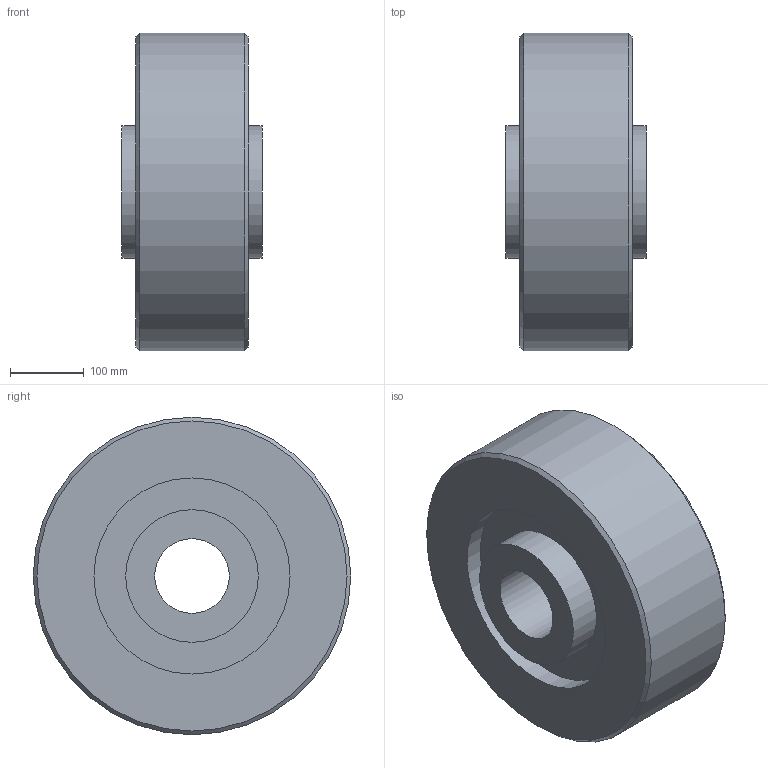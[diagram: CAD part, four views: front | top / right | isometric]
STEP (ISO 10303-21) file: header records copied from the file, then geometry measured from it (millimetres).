
FILE_DESCRIPTION((''),'1');
FILE_NAME('H:/図庫/国内ﾕﾆｯﾄ/ｶﾀﾛｸﾞ/ｸﾘｰﾌﾟﾌﾘｰ/ホームページ用ＣＡＤ図面/3D/update用', '2017-07-12T06:02:32',(''), (''), 'KCM Version 1.1.1442.0', 'Kubotek KeyCreator', '');
FILE_SCHEMA(('AUTOMOTIVE_DESIGN'));
Length unit declared in the file: inch
Bounding box: 190.5 x 431.8 x 431.8 mm (x, y, z)
Surface area: 628993.3 mm2 (no closed solid volume)
Topology: 0 solids, 14 shells, 14 faces, 36 edges, 28 vertices
Faces by surface type: plane 6, cylinder 6, cone 2
Full cylindrical faces by diameter (mm): 101.6 x1, 180.34 x2, 266.7 x2, 431.8 x1
Entity records: 482 total; most frequent: DIRECTION 94, CARTESIAN_POINT 79, ORIENTED_EDGE 44, AXIS2_PLACEMENT_3D 43, EDGE_CURVE 36, VERTEX_POINT 28, CIRCLE 28, EDGE_LOOP 20
